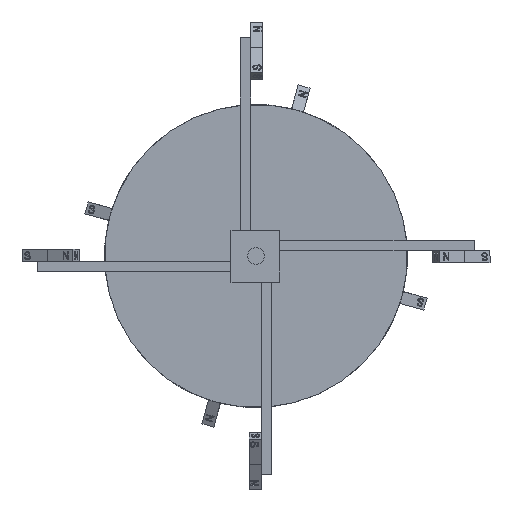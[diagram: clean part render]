
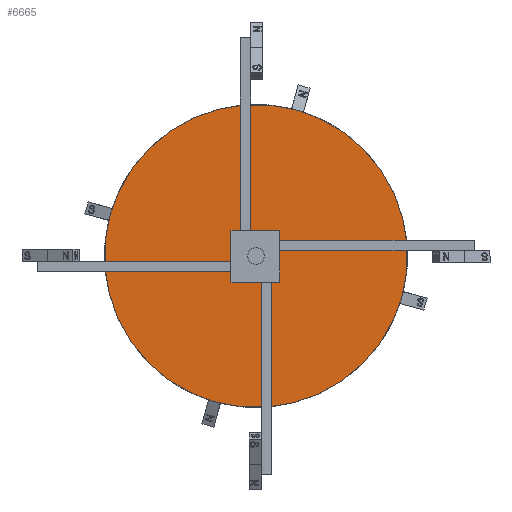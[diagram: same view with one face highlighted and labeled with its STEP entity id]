
A CAD part, left-side view. The second image highlights one B-rep face of the part: STEP entity #6665.
In plain terms, the highlighted planar face has unit normal (-1, 0, 0) as drawn and (0, 0, -1) by its records, which use the part's own axes.
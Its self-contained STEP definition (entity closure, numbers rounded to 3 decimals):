
#296=FACE_BOUND('',#1099,.T.);
#715=FACE_OUTER_BOUND('',#1098,.T.);
#1098=EDGE_LOOP('',(#4627));
#1099=EDGE_LOOP('',(#4628));
#1490=CIRCLE('',#7116,189.992);
#1496=CIRCLE('',#7131,15.942);
#2791=VERTEX_POINT('',#9020);
#2798=VERTEX_POINT('',#9051);
#3494=EDGE_CURVE('',#2791,#2791,#1490,.T.);
#3509=EDGE_CURVE('',#2798,#2798,#1496,.T.);
#4627=ORIENTED_EDGE('',*,*,#3494,.F.);
#4628=ORIENTED_EDGE('',*,*,#3509,.T.);
#6473=PLANE('',#7134);
#6665=ADVANCED_FACE('',(#715,#296),#6473,.F.);
#7116=AXIS2_PLACEMENT_3D('',#9022,#7522,#7523);
#7131=AXIS2_PLACEMENT_3D('',#9053,#7561,#7562);
#7134=AXIS2_PLACEMENT_3D('',#9056,#7567,#7568);
#7522=DIRECTION('center_axis',(0.,0.,1.));
#7523=DIRECTION('ref_axis',(1.,0.,0.));
#7561=DIRECTION('center_axis',(0.,0.,1.));
#7562=DIRECTION('ref_axis',(1.,0.,0.));
#7567=DIRECTION('center_axis',(0.,0.,1.));
#7568=DIRECTION('ref_axis',(1.,0.,0.));
#9020=CARTESIAN_POINT('',(-189.992,0.,0.));
#9022=CARTESIAN_POINT('Origin',(0.,0.,0.));
#9051=CARTESIAN_POINT('',(-15.942,0.,0.));
#9053=CARTESIAN_POINT('Origin',(0.,0.,0.));
#9056=CARTESIAN_POINT('Origin',(0.,0.,0.));
